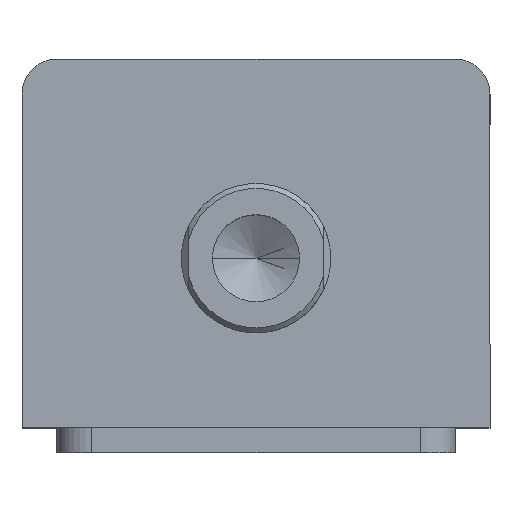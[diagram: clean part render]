
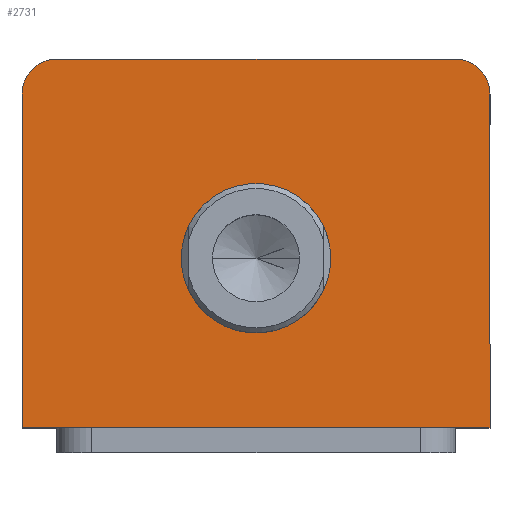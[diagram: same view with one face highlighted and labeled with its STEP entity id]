
A CAD part, top view. The second image highlights one B-rep face of the part: STEP entity #2731.
In plain terms, the highlighted planar face has unit normal (0, 0, 1).
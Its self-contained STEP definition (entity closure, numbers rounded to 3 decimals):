
#4 = VERTEX_POINT ( 'NONE', #753 ) ;
#23 = VERTEX_POINT ( 'NONE', #868 ) ;
#128 = ORIENTED_EDGE ( 'NONE', *, *, #2692, .T. ) ;
#137 = ORIENTED_EDGE ( 'NONE', *, *, #2696, .T. ) ;
#138 = ORIENTED_EDGE ( 'NONE', *, *, #2655, .T. ) ;
#139 = ORIENTED_EDGE ( 'NONE', *, *, #2135, .T. ) ;
#140 = ORIENTED_EDGE ( 'NONE', *, *, #2704, .T. ) ;
#141 = ORIENTED_EDGE ( 'NONE', *, *, #2371, .F. ) ;
#142 = ORIENTED_EDGE ( 'NONE', *, *, #2673, .T. ) ;
#147 = ORIENTED_EDGE ( 'NONE', *, *, #2148, .F. ) ;
#172 = LINE ( 'NONE', #742, #176 ) ;
#176 = VECTOR ( 'NONE', #743, 1000. ) ;
#197 = CIRCLE ( 'NONE', #2288, 15. ) ;
#284 = CIRCLE ( 'NONE', #2255, 15. ) ;
#742 = CARTESIAN_POINT ( 'NONE',  ( -47., 37., 75. ) ) ;
#743 = DIRECTION ( 'NONE',  ( 0., -1., 0. ) ) ;
#753 = CARTESIAN_POINT ( 'NONE',  ( 40., 37., 75. ) ) ;
#768 = CARTESIAN_POINT ( 'NONE',  ( -15., -3., 75. ) ) ;
#773 = CARTESIAN_POINT ( 'NONE',  ( -47., -37., 75. ) ) ;
#781 = CARTESIAN_POINT ( 'NONE',  ( 47., -37., 75. ) ) ;
#825 = CARTESIAN_POINT ( 'NONE',  ( -40., 37., 75. ) ) ;
#852 = CARTESIAN_POINT ( 'NONE',  ( 15., -3., 75. ) ) ;
#854 = CARTESIAN_POINT ( 'NONE',  ( -47., 30., 75. ) ) ;
#868 = CARTESIAN_POINT ( 'NONE',  ( 47., 30., 75. ) ) ;
#882 = EDGE_LOOP ( 'NONE', ( #142, #140, #139, #138, #128, #137 ) ) ;
#900 = VERTEX_POINT ( 'NONE', #768 ) ;
#981 = LINE ( 'NONE', #2032, #988 ) ;
#988 = VECTOR ( 'NONE', #2010, 1000. ) ;
#1017 = LINE ( 'NONE', #1876, #1020 ) ;
#1020 = VECTOR ( 'NONE', #1881, 1000. ) ;
#1053 = LINE ( 'NONE', #1745, #1056 ) ;
#1056 = VECTOR ( 'NONE', #1741, 1000. ) ;
#1057 = CIRCLE ( 'NONE', #2227, 7. ) ;
#1067 = CIRCLE ( 'NONE', #2220, 7. ) ;
#1095 = FACE_OUTER_BOUND ( 'NONE', #882, .T. ) ;
#1097 = FACE_BOUND ( 'NONE', #1630, .T. ) ;
#1425 = DIRECTION ( 'NONE',  ( 1., 0., 0. ) ) ;
#1426 = DIRECTION ( 'NONE',  ( 0., 0., 1. ) ) ;
#1430 = CARTESIAN_POINT ( 'NONE',  ( 0., -3., 75. ) ) ;
#1472 = DIRECTION ( 'NONE',  ( 1., 0., 0. ) ) ;
#1473 = DIRECTION ( 'NONE',  ( 0., 0., 1. ) ) ;
#1475 = CARTESIAN_POINT ( 'NONE',  ( 0., -3., 75. ) ) ;
#1588 = VERTEX_POINT ( 'NONE', #825 ) ;
#1607 = VERTEX_POINT ( 'NONE', #854 ) ;
#1609 = VERTEX_POINT ( 'NONE', #852 ) ;
#1610 = VERTEX_POINT ( 'NONE', #781 ) ;
#1618 = VERTEX_POINT ( 'NONE', #773 ) ;
#1630 = EDGE_LOOP ( 'NONE', ( #147, #141 ) ) ;
#1741 = DIRECTION ( 'NONE',  ( 0., 1., 0. ) ) ;
#1745 = CARTESIAN_POINT ( 'NONE',  ( 47., 37., 75. ) ) ;
#1799 = DIRECTION ( 'NONE',  ( 0., 0., 1. ) ) ;
#1810 = CARTESIAN_POINT ( 'NONE',  ( 40., 30., 75. ) ) ;
#1876 = CARTESIAN_POINT ( 'NONE',  ( -47., 37., 75. ) ) ;
#1881 = DIRECTION ( 'NONE',  ( -1., 0., 0. ) ) ;
#1965 = DIRECTION ( 'NONE',  ( 1., 0., 0. ) ) ;
#1968 = DIRECTION ( 'NONE',  ( 0., 0., 1. ) ) ;
#1970 = PLANE ( 'NONE',  #2203 ) ;
#1979 = CARTESIAN_POINT ( 'NONE',  ( 0., 0., 75. ) ) ;
#2010 = DIRECTION ( 'NONE',  ( 1., 0., 0. ) ) ;
#2032 = CARTESIAN_POINT ( 'NONE',  ( -47., -37., 75. ) ) ;
#2069 = DIRECTION ( 'NONE',  ( 1., 0., 0. ) ) ;
#2070 = DIRECTION ( 'NONE',  ( 0., 0., 1. ) ) ;
#2072 = CARTESIAN_POINT ( 'NONE',  ( -40., 30., 75. ) ) ;
#2109 = DIRECTION ( 'NONE',  ( 1., 0., 0. ) ) ;
#2135 = EDGE_CURVE ( 'NONE', #1607, #1618, #172, .T. ) ;
#2148 = EDGE_CURVE ( 'NONE', #1609, #900, #197, .T. ) ;
#2203 = AXIS2_PLACEMENT_3D ( 'NONE', #1979, #1968, #1965 ) ;
#2220 = AXIS2_PLACEMENT_3D ( 'NONE', #2072, #2070, #2069 ) ;
#2227 = AXIS2_PLACEMENT_3D ( 'NONE', #1810, #1799, #2109 ) ;
#2255 = AXIS2_PLACEMENT_3D ( 'NONE', #1430, #1426, #1425 ) ;
#2288 = AXIS2_PLACEMENT_3D ( 'NONE', #1475, #1473, #1472 ) ;
#2371 = EDGE_CURVE ( 'NONE', #900, #1609, #284, .T. ) ;
#2655 = EDGE_CURVE ( 'NONE', #1618, #1610, #981, .T. ) ;
#2673 = EDGE_CURVE ( 'NONE', #4, #1588, #1017, .T. ) ;
#2692 = EDGE_CURVE ( 'NONE', #1610, #23, #1053, .T. ) ;
#2696 = EDGE_CURVE ( 'NONE', #23, #4, #1057, .T. ) ;
#2704 = EDGE_CURVE ( 'NONE', #1588, #1607, #1067, .T. ) ;
#2731 = ADVANCED_FACE ( 'NONE', ( #1097, #1095 ), #1970, .T. ) ;
